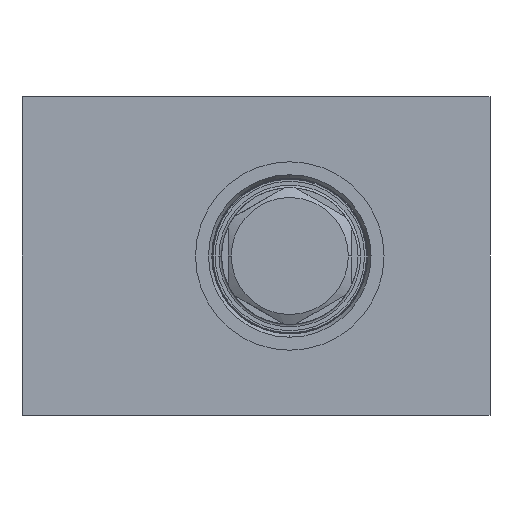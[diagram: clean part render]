
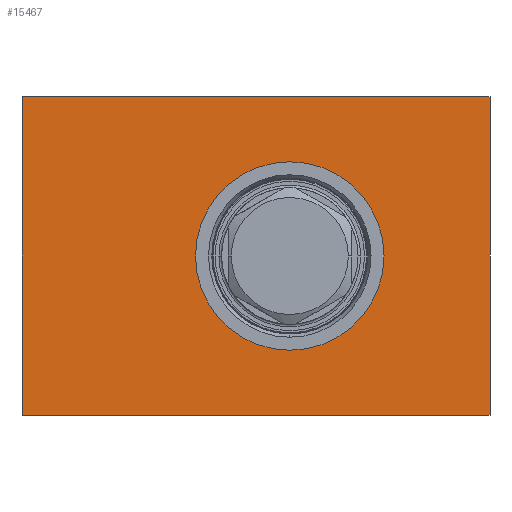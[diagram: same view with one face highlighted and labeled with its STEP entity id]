
A CAD part, left-side view. The second image highlights one B-rep face of the part: STEP entity #15467.
In plain terms, the highlighted planar face has unit normal (-1, 0, 0).
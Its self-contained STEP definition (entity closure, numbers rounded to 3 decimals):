
#272 = VERTEX_POINT ( 'NONE', #7311 ) ;
#2012 = AXIS2_PLACEMENT_3D ( 'NONE', #6768, #8383, #2380 ) ;
#2380 = DIRECTION ( 'NONE',  ( 0., 0., -1. ) ) ;
#2449 = AXIS2_PLACEMENT_3D ( 'NONE', #18272, #27197, #25001 ) ;
#3396 = CARTESIAN_POINT ( 'NONE',  ( -49., -36., 24.5 ) ) ;
#3692 = ORIENTED_EDGE ( 'NONE', *, *, #15279, .T. ) ;
#4691 = VERTEX_POINT ( 'NONE', #3396 ) ;
#4955 = DIRECTION ( 'NONE',  ( 0., -1., 0. ) ) ;
#5274 = EDGE_CURVE ( 'NONE', #25999, #10556, #24750, .T. ) ;
#5793 = DIRECTION ( 'NONE',  ( 0., -1., 0. ) ) ;
#6635 = DIRECTION ( 'NONE',  ( 0., 0., -1. ) ) ;
#6768 = CARTESIAN_POINT ( 'NONE',  ( -49., 36., 24.5 ) ) ;
#7311 = CARTESIAN_POINT ( 'NONE',  ( -49., -5.2, 14.5 ) ) ;
#7315 = CARTESIAN_POINT ( 'NONE',  ( -49., 36., 24.5 ) ) ;
#7441 = EDGE_CURVE ( 'NONE', #10556, #4691, #25963, .T. ) ;
#8266 = VECTOR ( 'NONE', #25472, 1000. ) ;
#8383 = DIRECTION ( 'NONE',  ( 1., 0., 0. ) ) ;
#9233 = CIRCLE ( 'NONE', #23736, 14.5 ) ;
#10089 = EDGE_CURVE ( 'NONE', #20696, #4691, #28780, .T. ) ;
#10556 = VERTEX_POINT ( 'NONE', #15272 ) ;
#10628 = EDGE_CURVE ( 'NONE', #14110, #272, #9233, .T. ) ;
#10873 = FACE_OUTER_BOUND ( 'NONE', #23432, .T. ) ;
#10921 = CARTESIAN_POINT ( 'NONE',  ( -49., 36., -24.5 ) ) ;
#11564 = EDGE_LOOP ( 'NONE', ( #24498, #3692 ) ) ;
#13084 = PLANE ( 'NONE',  #2012 ) ;
#13113 = VECTOR ( 'NONE', #4955, 1000. ) ;
#14110 = VERTEX_POINT ( 'NONE', #23053 ) ;
#15272 = CARTESIAN_POINT ( 'NONE',  ( -49., -36., -24.5 ) ) ;
#15279 = EDGE_CURVE ( 'NONE', #272, #14110, #18809, .T. ) ;
#15467 = ADVANCED_FACE ( 'NONE', ( #26406, #10873 ), #13084, .F. ) ;
#16883 = DIRECTION ( 'NONE',  ( 0., 0., 1. ) ) ;
#17768 = CARTESIAN_POINT ( 'NONE',  ( -49., -5.2, 0. ) ) ;
#18272 = CARTESIAN_POINT ( 'NONE',  ( -49., -5.2, 0. ) ) ;
#18297 = CARTESIAN_POINT ( 'NONE',  ( -49., 36., -24.5 ) ) ;
#18343 = VECTOR ( 'NONE', #16883, 1000. ) ;
#18809 = CIRCLE ( 'NONE', #2449, 14.5 ) ;
#19952 = ORIENTED_EDGE ( 'NONE', *, *, #7441, .T. ) ;
#20696 = VERTEX_POINT ( 'NONE', #27309 ) ;
#22007 = ORIENTED_EDGE ( 'NONE', *, *, #24115, .F. ) ;
#22855 = LINE ( 'NONE', #7315, #8266 ) ;
#23050 = ORIENTED_EDGE ( 'NONE', *, *, #10089, .F. ) ;
#23053 = CARTESIAN_POINT ( 'NONE',  ( -49., -5.2, -14.5 ) ) ;
#23432 = EDGE_LOOP ( 'NONE', ( #19952, #23050, #22007, #26797 ) ) ;
#23609 = CARTESIAN_POINT ( 'NONE',  ( -49., -36., 24.5 ) ) ;
#23736 = AXIS2_PLACEMENT_3D ( 'NONE', #17768, #26713, #6635 ) ;
#24115 = EDGE_CURVE ( 'NONE', #25999, #20696, #22855, .T. ) ;
#24498 = ORIENTED_EDGE ( 'NONE', *, *, #10628, .T. ) ;
#24750 = LINE ( 'NONE', #18297, #13113 ) ;
#25001 = DIRECTION ( 'NONE',  ( 0., 0., -1. ) ) ;
#25125 = VECTOR ( 'NONE', #5793, 1000. ) ;
#25472 = DIRECTION ( 'NONE',  ( 0., 0., 1. ) ) ;
#25963 = LINE ( 'NONE', #23609, #18343 ) ;
#25999 = VERTEX_POINT ( 'NONE', #10921 ) ;
#26304 = CARTESIAN_POINT ( 'NONE',  ( -49., 36., 24.5 ) ) ;
#26406 = FACE_BOUND ( 'NONE', #11564, .T. ) ;
#26713 = DIRECTION ( 'NONE',  ( 1., 0., 0. ) ) ;
#26797 = ORIENTED_EDGE ( 'NONE', *, *, #5274, .T. ) ;
#27197 = DIRECTION ( 'NONE',  ( 1., 0., 0. ) ) ;
#27309 = CARTESIAN_POINT ( 'NONE',  ( -49., 36., 24.5 ) ) ;
#28780 = LINE ( 'NONE', #26304, #25125 ) ;
